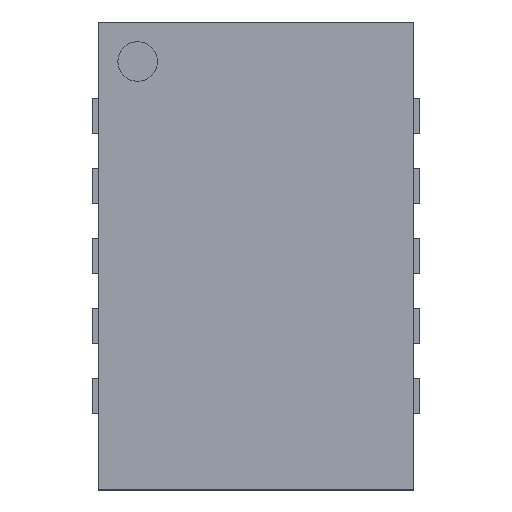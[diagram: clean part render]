
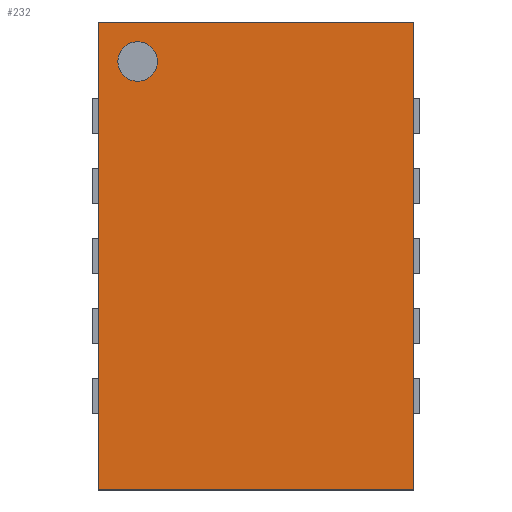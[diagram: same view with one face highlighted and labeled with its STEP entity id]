
A CAD part, top view. The second image highlights one B-rep face of the part: STEP entity #232.
In plain terms, the highlighted planar face has unit normal (0, 0, 1).
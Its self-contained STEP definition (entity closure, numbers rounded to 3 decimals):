
#43 = VERTEX_POINT('',#44);
#44 = CARTESIAN_POINT('',(-1.35,-2.,1.1));
#51 = PLANE('',#52);
#52 = AXIS2_PLACEMENT_3D('',#53,#54,#55);
#53 = CARTESIAN_POINT('',(-1.35,-2.,0.05));
#54 = DIRECTION('',(1.,0.,0.));
#55 = DIRECTION('',(0.,0.,1.));
#63 = PLANE('',#64);
#64 = AXIS2_PLACEMENT_3D('',#65,#66,#67);
#65 = CARTESIAN_POINT('',(-1.35,-2.,0.05));
#66 = DIRECTION('',(0.,1.,0.));
#67 = DIRECTION('',(0.,0.,1.));
#104 = VERTEX_POINT('',#105);
#105 = CARTESIAN_POINT('',(-1.35,2.,1.1));
#119 = PLANE('',#120);
#120 = AXIS2_PLACEMENT_3D('',#121,#122,#123);
#121 = CARTESIAN_POINT('',(-1.35,2.,0.05));
#122 = DIRECTION('',(0.,1.,0.));
#123 = DIRECTION('',(0.,0.,1.));
#131 = EDGE_CURVE('',#43,#104,#132,.T.);
#132 = SURFACE_CURVE('',#133,(#137,#144),.PCURVE_S1.);
#133 = LINE('',#134,#135);
#134 = CARTESIAN_POINT('',(-1.35,-2.,1.1));
#135 = VECTOR('',#136,1.);
#136 = DIRECTION('',(0.,1.,0.));
#137 = PCURVE('',#51,#138);
#138 = DEFINITIONAL_REPRESENTATION('',(#139),#143);
#139 = LINE('',#140,#141);
#140 = CARTESIAN_POINT('',(1.05,0.));
#141 = VECTOR('',#142,1.);
#142 = DIRECTION('',(0.,-1.));
#143 = ( GEOMETRIC_REPRESENTATION_CONTEXT(2) 
PARAMETRIC_REPRESENTATION_CONTEXT() REPRESENTATION_CONTEXT('2D SPACE',''
  ) );
#144 = PCURVE('',#145,#150);
#145 = PLANE('',#146);
#146 = AXIS2_PLACEMENT_3D('',#147,#148,#149);
#147 = CARTESIAN_POINT('',(-1.35,-2.,1.1));
#148 = DIRECTION('',(0.,0.,1.));
#149 = DIRECTION('',(1.,0.,0.));
#150 = DEFINITIONAL_REPRESENTATION('',(#151),#155);
#151 = LINE('',#152,#153);
#152 = CARTESIAN_POINT('',(0.,0.));
#153 = VECTOR('',#154,1.);
#154 = DIRECTION('',(0.,1.));
#155 = ( GEOMETRIC_REPRESENTATION_CONTEXT(2) 
PARAMETRIC_REPRESENTATION_CONTEXT() REPRESENTATION_CONTEXT('2D SPACE',''
  ) );
#184 = EDGE_CURVE('',#43,#185,#187,.T.);
#185 = VERTEX_POINT('',#186);
#186 = CARTESIAN_POINT('',(1.35,-2.,1.1));
#187 = SURFACE_CURVE('',#188,(#192,#199),.PCURVE_S1.);
#188 = LINE('',#189,#190);
#189 = CARTESIAN_POINT('',(-1.35,-2.,1.1));
#190 = VECTOR('',#191,1.);
#191 = DIRECTION('',(1.,0.,0.));
#192 = PCURVE('',#63,#193);
#193 = DEFINITIONAL_REPRESENTATION('',(#194),#198);
#194 = LINE('',#195,#196);
#195 = CARTESIAN_POINT('',(1.05,0.));
#196 = VECTOR('',#197,1.);
#197 = DIRECTION('',(0.,1.));
#198 = ( GEOMETRIC_REPRESENTATION_CONTEXT(2) 
PARAMETRIC_REPRESENTATION_CONTEXT() REPRESENTATION_CONTEXT('2D SPACE',''
  ) );
#199 = PCURVE('',#145,#200);
#200 = DEFINITIONAL_REPRESENTATION('',(#201),#205);
#201 = LINE('',#202,#203);
#202 = CARTESIAN_POINT('',(0.,0.));
#203 = VECTOR('',#204,1.);
#204 = DIRECTION('',(1.,0.));
#205 = ( GEOMETRIC_REPRESENTATION_CONTEXT(2) 
PARAMETRIC_REPRESENTATION_CONTEXT() REPRESENTATION_CONTEXT('2D SPACE',''
  ) );
#221 = PLANE('',#222);
#222 = AXIS2_PLACEMENT_3D('',#223,#224,#225);
#223 = CARTESIAN_POINT('',(1.35,-2.,0.05));
#224 = DIRECTION('',(1.,0.,0.));
#225 = DIRECTION('',(0.,0.,1.));
#232 = ADVANCED_FACE('',(#233,#281),#145,.T.);
#233 = FACE_BOUND('',#234,.T.);
#234 = EDGE_LOOP('',(#235,#236,#237,#260));
#235 = ORIENTED_EDGE('',*,*,#131,.F.);
#236 = ORIENTED_EDGE('',*,*,#184,.T.);
#237 = ORIENTED_EDGE('',*,*,#238,.T.);
#238 = EDGE_CURVE('',#185,#239,#241,.T.);
#239 = VERTEX_POINT('',#240);
#240 = CARTESIAN_POINT('',(1.35,2.,1.1));
#241 = SURFACE_CURVE('',#242,(#246,#253),.PCURVE_S1.);
#242 = LINE('',#243,#244);
#243 = CARTESIAN_POINT('',(1.35,-2.,1.1));
#244 = VECTOR('',#245,1.);
#245 = DIRECTION('',(0.,1.,0.));
#246 = PCURVE('',#145,#247);
#247 = DEFINITIONAL_REPRESENTATION('',(#248),#252);
#248 = LINE('',#249,#250);
#249 = CARTESIAN_POINT('',(2.7,0.));
#250 = VECTOR('',#251,1.);
#251 = DIRECTION('',(0.,1.));
#252 = ( GEOMETRIC_REPRESENTATION_CONTEXT(2) 
PARAMETRIC_REPRESENTATION_CONTEXT() REPRESENTATION_CONTEXT('2D SPACE',''
  ) );
#253 = PCURVE('',#221,#254);
#254 = DEFINITIONAL_REPRESENTATION('',(#255),#259);
#255 = LINE('',#256,#257);
#256 = CARTESIAN_POINT('',(1.05,0.));
#257 = VECTOR('',#258,1.);
#258 = DIRECTION('',(0.,-1.));
#259 = ( GEOMETRIC_REPRESENTATION_CONTEXT(2) 
PARAMETRIC_REPRESENTATION_CONTEXT() REPRESENTATION_CONTEXT('2D SPACE',''
  ) );
#260 = ORIENTED_EDGE('',*,*,#261,.F.);
#261 = EDGE_CURVE('',#104,#239,#262,.T.);
#262 = SURFACE_CURVE('',#263,(#267,#274),.PCURVE_S1.);
#263 = LINE('',#264,#265);
#264 = CARTESIAN_POINT('',(-1.35,2.,1.1));
#265 = VECTOR('',#266,1.);
#266 = DIRECTION('',(1.,0.,0.));
#267 = PCURVE('',#145,#268);
#268 = DEFINITIONAL_REPRESENTATION('',(#269),#273);
#269 = LINE('',#270,#271);
#270 = CARTESIAN_POINT('',(0.,4.));
#271 = VECTOR('',#272,1.);
#272 = DIRECTION('',(1.,0.));
#273 = ( GEOMETRIC_REPRESENTATION_CONTEXT(2) 
PARAMETRIC_REPRESENTATION_CONTEXT() REPRESENTATION_CONTEXT('2D SPACE',''
  ) );
#274 = PCURVE('',#119,#275);
#275 = DEFINITIONAL_REPRESENTATION('',(#276),#280);
#276 = LINE('',#277,#278);
#277 = CARTESIAN_POINT('',(1.05,0.));
#278 = VECTOR('',#279,1.);
#279 = DIRECTION('',(0.,1.));
#280 = ( GEOMETRIC_REPRESENTATION_CONTEXT(2) 
PARAMETRIC_REPRESENTATION_CONTEXT() REPRESENTATION_CONTEXT('2D SPACE',''
  ) );
#281 = FACE_BOUND('',#282,.T.);
#282 = EDGE_LOOP('',(#283));
#283 = ORIENTED_EDGE('',*,*,#284,.F.);
#284 = EDGE_CURVE('',#285,#285,#287,.T.);
#285 = VERTEX_POINT('',#286);
#286 = CARTESIAN_POINT('',(-0.844,1.663,1.1));
#287 = SURFACE_CURVE('',#288,(#293,#300),.PCURVE_S1.);
#288 = CIRCLE('',#289,0.169);
#289 = AXIS2_PLACEMENT_3D('',#290,#291,#292);
#290 = CARTESIAN_POINT('',(-1.013,1.663,1.1));
#291 = DIRECTION('',(0.,0.,1.));
#292 = DIRECTION('',(1.,0.,0.));
#293 = PCURVE('',#145,#294);
#294 = DEFINITIONAL_REPRESENTATION('',(#295),#299);
#295 = CIRCLE('',#296,0.169);
#296 = AXIS2_PLACEMENT_2D('',#297,#298);
#297 = CARTESIAN_POINT('',(0.338,3.663));
#298 = DIRECTION('',(1.,0.));
#299 = ( GEOMETRIC_REPRESENTATION_CONTEXT(2) 
PARAMETRIC_REPRESENTATION_CONTEXT() REPRESENTATION_CONTEXT('2D SPACE',''
  ) );
#300 = PCURVE('',#301,#306);
#301 = CYLINDRICAL_SURFACE('',#302,0.169);
#302 = AXIS2_PLACEMENT_3D('',#303,#304,#305);
#303 = CARTESIAN_POINT('',(-1.013,1.663,0.99));
#304 = DIRECTION('',(0.,0.,1.));
#305 = DIRECTION('',(1.,0.,0.));
#306 = DEFINITIONAL_REPRESENTATION('',(#307),#311);
#307 = LINE('',#308,#309);
#308 = CARTESIAN_POINT('',(0.,0.11));
#309 = VECTOR('',#310,1.);
#310 = DIRECTION('',(1.,0.));
#311 = ( GEOMETRIC_REPRESENTATION_CONTEXT(2) 
PARAMETRIC_REPRESENTATION_CONTEXT() REPRESENTATION_CONTEXT('2D SPACE',''
  ) );
